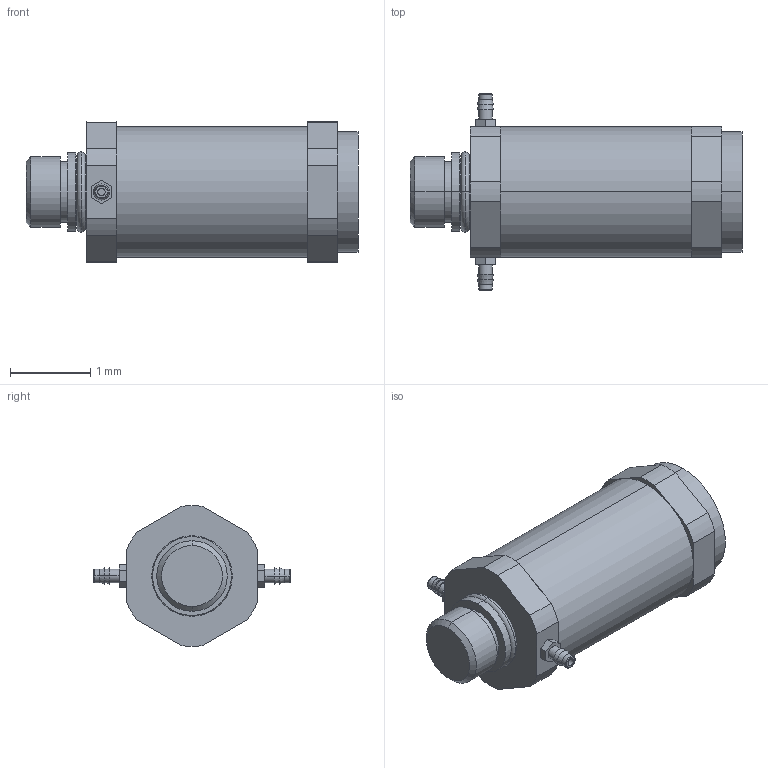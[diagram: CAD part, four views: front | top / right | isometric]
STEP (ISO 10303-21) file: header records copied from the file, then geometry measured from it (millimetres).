
FILE_DESCRIPTION((''),'2;1');
FILE_NAME('XFR4.stp','2017-11-07T11:42:17',(''),(''),'Mechanical Desktop 2011','Mechanical Desktop 2011',', , ');
FILE_SCHEMA(('CONFIG_CONTROL_DESIGN'));
Length unit declared in the file: millimetre
Products named in the file (1): Product
Bounding box: 4.12 x 2.44 x 1.75 mm (x, y, z)
Volume: 7.5 mm3; surface area: 38.6 mm2
Topology: 7 solids, 7 shells, 100 faces, 220 edges, 142 vertices
Faces by surface type: plane 46, cylinder 36, cone 10, torus 8
Entity records: 2869 total; most frequent: DIRECTION 524, CARTESIAN_POINT 463, ORIENTED_EDGE 440, EDGE_CURVE 220, AXIS2_PLACEMENT_3D 203, VERTEX_POINT 142, VECTOR 118, LINE 118
